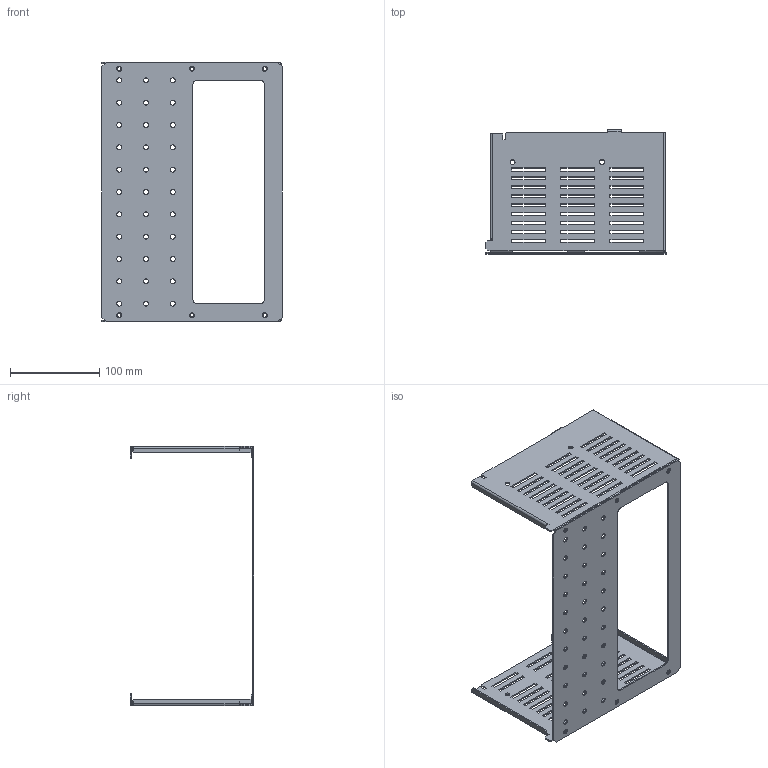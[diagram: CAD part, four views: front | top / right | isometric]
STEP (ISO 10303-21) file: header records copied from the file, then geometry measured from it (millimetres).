
FILE_DESCRIPTION(('CAx-IF Rec.Pracs.---Model Styling and Organization---1.2---2011-12-15','CAx-IF Rec.Pracs.---Geometric and Assembly Validation Properties---4.1---2014-06-16','CAx-IF Rec.Pracs.---PMI Polyline Presentation---2.0---2013-05-24'),'2;1');
FILE_NAME('R5M2W6MRT3C.stp','2021-05-05T13:07:24+03:00',(''),(''),'STEP Interface 4.4 by CT CoreTechnologie','3D_Evolution4.4 by CT CoreTechnologie','');
FILE_SCHEMA(('AUTOMOTIVE_DESIGN { 1 0 10303 214 1 1 1 1 }'));
Length unit declared in the file: millimetre
Products named in the file (4): R5M2W6MRT3C; RB.1465.00.00.0_-00; RB.1468.00.00.0_-04; RB.1465.00.00.0_-01
Assembly tree (3 placements, depth 2):
  R5M2W6MRT3C
    RB.1465.00.00.0_-00
    RB.1468.00.00.0_-04
    RB.1465.00.00.0_-01
Bounding box: 202 x 138.5 x 290 mm (x, y, z)
Surface area: 185267 mm2 (no closed solid volume)
Topology: 0 solids, 3 shells, 506 faces, 1483 edges, 983 vertices
Faces by surface type: plane 372, cylinder 130, bspline 4
Entity records: 17400 total; most frequent: CARTESIAN_POINT 3122, ORIENTED_EDGE 2966, DIRECTION 2745, EDGE_CURVE 1483, VECTOR 1221, LINE 1221, VERTEX_POINT 983, AXIS2_PLACEMENT_3D 762
